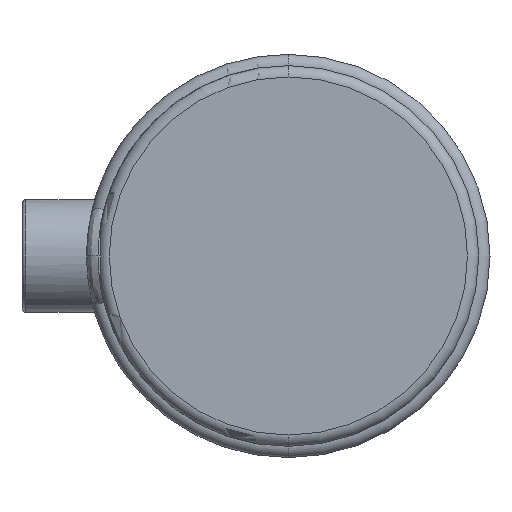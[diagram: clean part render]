
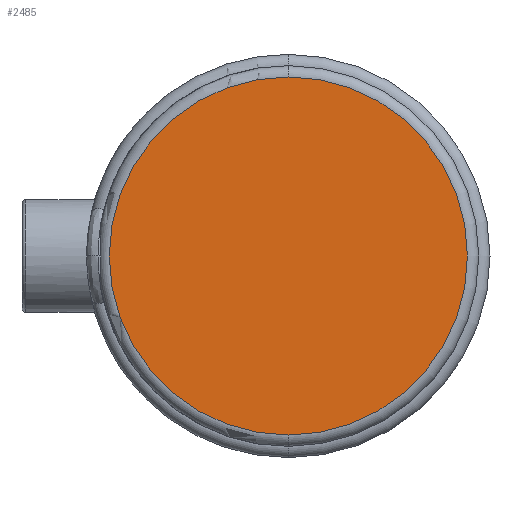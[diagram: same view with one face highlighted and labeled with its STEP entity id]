
A CAD part, left-side view. The second image highlights one B-rep face of the part: STEP entity #2485.
In plain terms, the highlighted planar face has unit normal (-1, 0, 0).
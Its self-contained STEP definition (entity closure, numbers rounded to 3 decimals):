
#549 = AXIS2_PLACEMENT_3D ( 'NONE', #5071, #2395, #5029 ) ;
#757 = EDGE_CURVE ( 'NONE', #5744, #5966, #5807, .T. ) ;
#955 = AXIS2_PLACEMENT_3D ( 'NONE', #5408, #2665, #5867 ) ;
#1080 = EDGE_CURVE ( 'NONE', #5966, #5744, #2147, .T. ) ;
#1088 = ORIENTED_EDGE ( 'NONE', *, *, #1080, .T. ) ;
#1767 = ORIENTED_EDGE ( 'NONE', *, *, #757, .T. ) ;
#2147 = CIRCLE ( 'NONE', #955, 47.6 ) ;
#2312 = CARTESIAN_POINT ( 'NONE',  ( 0., 0., 47.6 ) ) ;
#2395 = DIRECTION ( 'NONE',  ( -1., 0., 0. ) ) ;
#2485 = ADVANCED_FACE ( 'NONE', ( #5863 ), #4345, .T. ) ;
#2549 = DIRECTION ( 'NONE',  ( 0., 0., 1. ) ) ;
#2665 = DIRECTION ( 'NONE',  ( -1., 0., 0. ) ) ;
#3233 = AXIS2_PLACEMENT_3D ( 'NONE', #3452, #5283, #2549 ) ;
#3452 = CARTESIAN_POINT ( 'NONE',  ( 0., 0., 0. ) ) ;
#3812 = CARTESIAN_POINT ( 'NONE',  ( 0., 0., -47.6 ) ) ;
#4345 = PLANE ( 'NONE',  #3233 ) ;
#4891 = EDGE_LOOP ( 'NONE', ( #1767, #1088 ) ) ;
#5029 = DIRECTION ( 'NONE',  ( 0., 0., 1. ) ) ;
#5071 = CARTESIAN_POINT ( 'NONE',  ( 0., 0., 0. ) ) ;
#5283 = DIRECTION ( 'NONE',  ( -1., 0., 0. ) ) ;
#5408 = CARTESIAN_POINT ( 'NONE',  ( 0., 0., 0. ) ) ;
#5744 = VERTEX_POINT ( 'NONE', #2312 ) ;
#5807 = CIRCLE ( 'NONE', #549, 47.6 ) ;
#5863 = FACE_OUTER_BOUND ( 'NONE', #4891, .T. ) ;
#5867 = DIRECTION ( 'NONE',  ( 0., 0., 1. ) ) ;
#5966 = VERTEX_POINT ( 'NONE', #3812 ) ;
